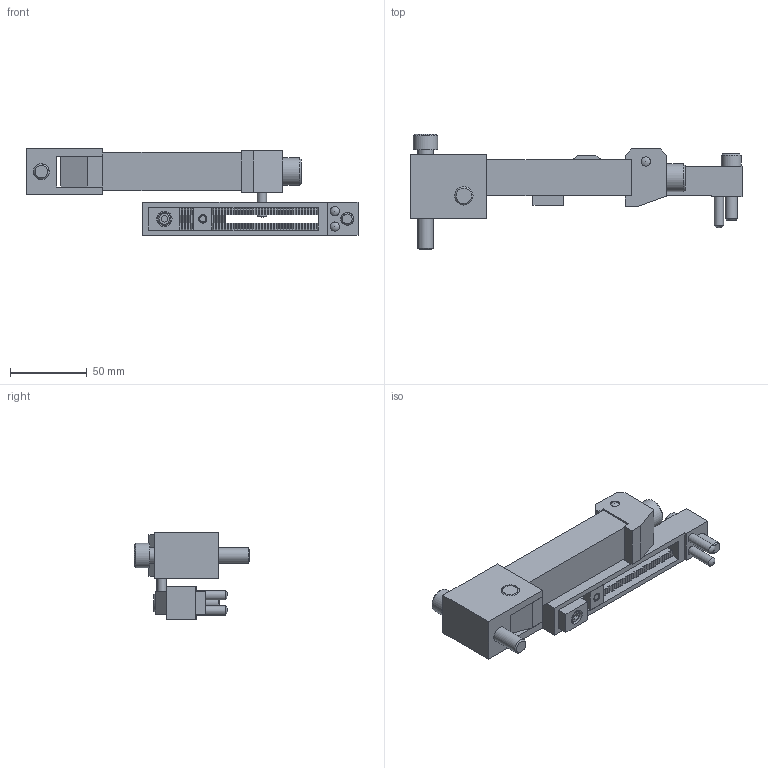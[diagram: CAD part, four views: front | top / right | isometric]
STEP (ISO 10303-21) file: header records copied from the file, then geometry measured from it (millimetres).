
FILE_DESCRIPTION( ( 'STEP AP214' ), '1' );
FILE_NAME( 'p:/temp/worker_1/temp/exporttempdir_3888_193_Bx4RC/format_0/BOX140BIS.stp', '2021-02-11T19:30:19', ( 'License CC BY-ND 4.0' ), ( 'CADENAS' ), ' ', 'PARTsolutions', ' ' );
FILE_SCHEMA( ( 'AUTOMOTIVE_DESIGN { 1 0 10303 214 1 1 1 1 }' ) );
Length unit declared in the file: millimetre
Products named in the file (18): BOX140BIS; _ZH90/1 BIS_head; _ZH90/1 BIS_screw1; _ZH90/1 BIS_hand; _ZH90/1 BIS_screw2; _ZH90/1 BIS_he; _ZH90/1 BIS_screw3; _ZH90/1 BIS_stift1; _ZH90/1 BIS_stift2; _ZH90/01_body; _M8-5; _ST2; _ZH90/01_foot1u; _ZH90/01_foot1d; _M5-1; _ZH90/01_foot2u; _ZH90/01_foot2d; _M5-2
Assembly tree (18 placements, depth 2):
  BOX140BIS
    _ZH90/1 BIS_head
    _ZH90/1 BIS_screw1
    _ZH90/1 BIS_hand
    _ZH90/1 BIS_screw2
    _ZH90/1 BIS_he
    _ZH90/1 BIS_screw3
    _ZH90/1 BIS_stift1
    _ZH90/1 BIS_stift2
    _ZH90/01_body
    _M8-5
    _ST2  x2
    _ZH90/01_foot1u
    _ZH90/01_foot1d
    _M5-1
    _ZH90/01_foot2u
    _ZH90/01_foot2d
    _M5-2
Bounding box: 216 x 75 x 56.5 mm (x, y, z)
Volume: 183243.9 mm3; surface area: 70952.1 mm2
Topology: 18 solids, 18 shells, 722 faces, 2026 edges, 1343 vertices
Faces by surface type: plane 667, cylinder 32, cone 17, sphere 6
Full cylindrical faces by diameter (mm): 4.134 x1, 5 x3, 5.5 x4, 6 x6, 8 x1, 8.4 x1, 8.5 x2, 10 x3, 10.106 x1, 10.5 x1, 12 x5, 13 x2, 16 x1, 18 x1
Entity records: 28582 total; most frequent: CARTESIAN_POINT 4078, ORIENTED_EDGE 3912, DIRECTION 3544, EDGE_CURVE 1956, LINE 1842, VECTOR 1842, VERTEX_POINT 1333, AXIS2_PLACEMENT_3D 851
